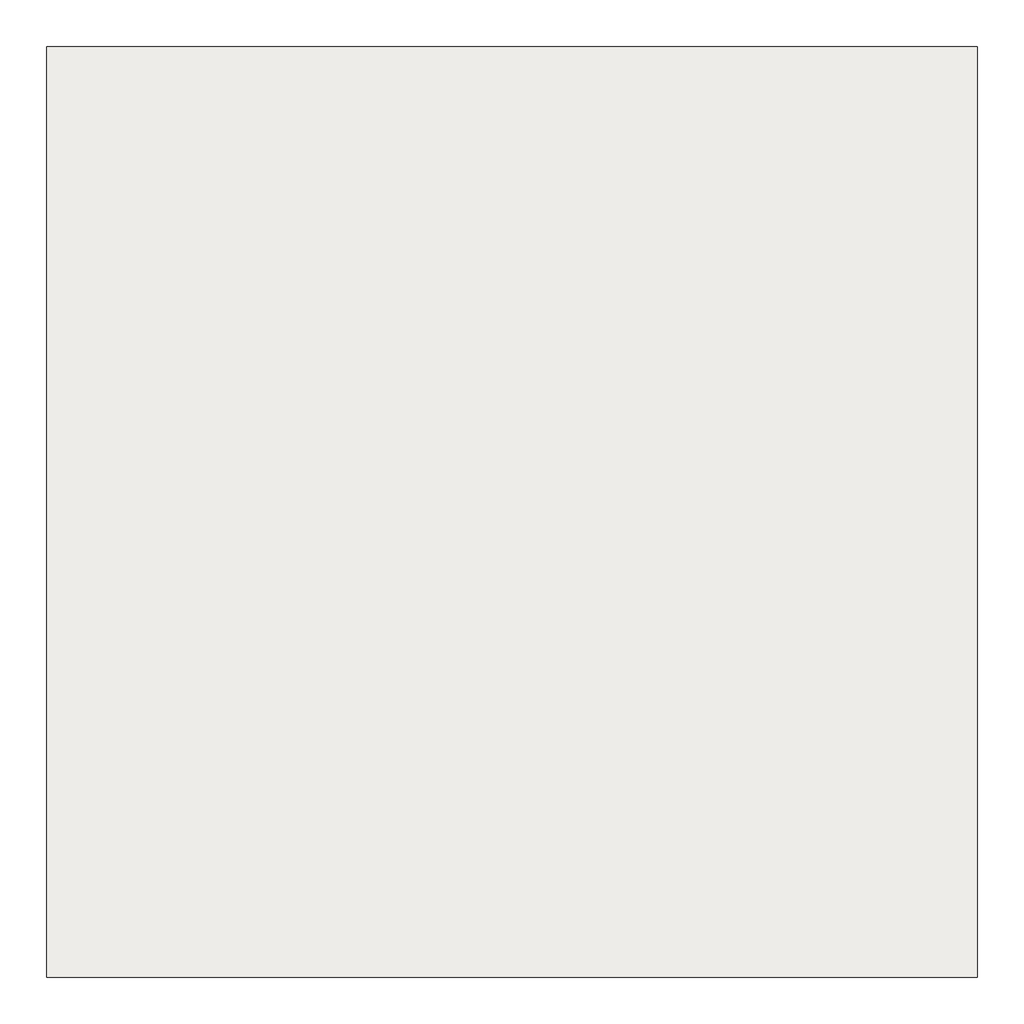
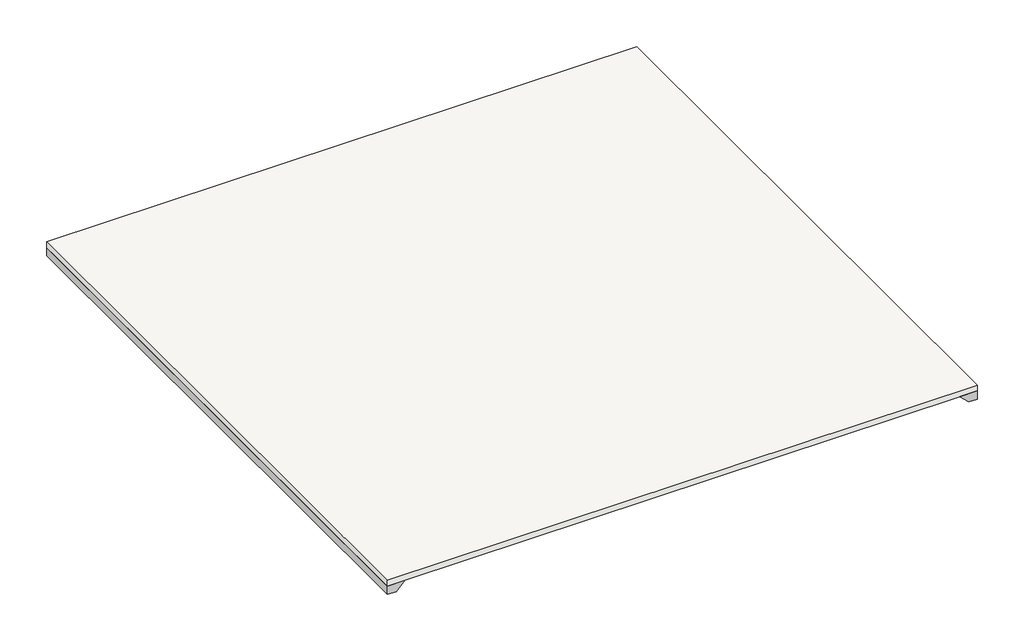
# One storey: 2 slabs, 1 proxy.
"""IFC4 building model written with IfcOpenShell, lengths in millimetres."""

from ifc_helpers import new_model, si_unit, origin, place, context, project, spatial, faceted_brep, transform, mapped, element, save
from components import slab_e44be637

model = new_model("IFC4")

# Units and contexts
model_context = context("Model", 3, world=origin())
ifc_project = project(units=[si_unit("LENGTHUNIT", "METRE", prefix="MILLI")], contexts=[model_context])

# Site, building, storey
site = spatial("IfcSite", under=ifc_project)
building = spatial("IfcBuilding", under=site)
storey = spatial("IfcBuildingStorey", under=building, Name="Fundamente", Elevation=-4000.0)

# Proxy
placement = place(None, origin())
element("IfcBuildingElementProxy", 1, Name="Plattenkante", ObjectType="Plattenkante", at=placement, inside=storey, context=model_context, shape_type="Brep", body=[
    faceted_brep([(10000.0, 12488.4720711, -4200.0), (10000.0, 12488.4720711, -4500.0), (-10000.0, 12488.4720711, -4500.0), (-10000.0, 12488.4720711, -4200.0), (9400.0, 11888.4720711, -4200.0), (-9400.0, 11888.4720711, -4200.0), (9700.0, 12188.4720711, -4500.0), (-9700.0, 12188.4720711, -4500.0), (10000.0, -7511.5279289, -4500.0), (10000.0, -7511.5279289, -4200.0), (9400.0, -7511.5279289, -4200.0), (9700.0, -7511.5279289, -4500.0), (-10000.0, -7511.5279289, -4500.0), (-9700.0, -7511.5279289, -4500.0), (-9400.0, -7511.5279289, -4200.0), (-10000.0, -7511.5279289, -4200.0)], [[[0, 1, 2, 3]], [[4, 0, 3, 5]], [[6, 4, 5, 7]], [[1, 6, 7, 2]], [[8, 9, 10, 11]], [[9, 8, 1, 0]], [[10, 9, 0, 4]], [[11, 10, 4, 6]], [[8, 11, 6, 1]], [[12, 13, 14, 15]], [[3, 2, 12, 15]], [[5, 3, 15, 14]], [[7, 5, 14, 13]], [[2, 7, 13, 12]]]),
])

# Slabs
slab_shape = slab_e44be637(model_context)
element("IfcSlab", 2, ObjectType="Fundamente 1 : Fundamente 1", at=placement, inside=storey, context=model_context, shape_type="MappedRepresentation", body=[
    mapped(slab_shape, transform((0.0, -600.0, 0.0), x_axis=(1.0, 0.0, 0.0), y_axis=(0.0, 1.0, 0.0), z_axis=(0.0, 0.0, 1.0))),
])
element("IfcSlab", 3, ObjectType="STB 20.0", at=placement, inside=storey, context=model_context, shape_type="Brep", body=[
    faceted_brep([(10000.0, 12488.4720711, -4200.0), (10000.0, -7511.5279289, -4200.0), (9400.0, -7511.5279289, -4200.0), (-9400.0, -7511.5279289, -4200.0), (-10000.0, -7511.5279289, -4200.0), (-10000.0, 12488.4720711, -4200.0), (10000.0, 12488.4720711, -4000.0), (-10000.0, 12488.4720711, -4000.0), (-10000.0, -7511.5279289, -4000.0), (10000.0, -7511.5279289, -4000.0)], [[[0, 1, 2, 3, 4, 5]], [[6, 7, 8, 9]], [[1, 0, 6, 9]], [[4, 3, 2, 1, 9, 8]], [[5, 4, 8, 7]], [[0, 5, 7, 6]]]),
])

save(model, "model.ifc")
